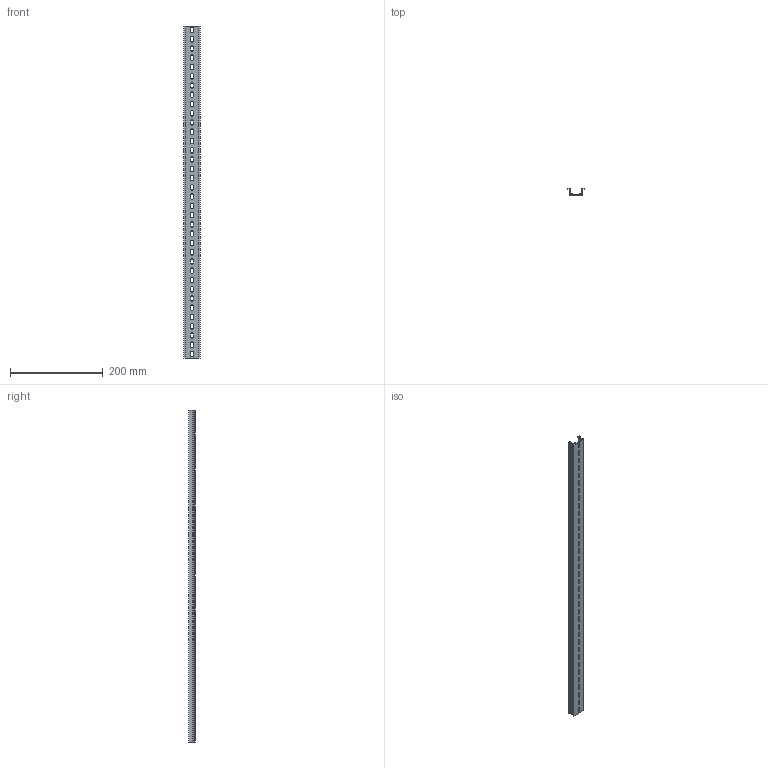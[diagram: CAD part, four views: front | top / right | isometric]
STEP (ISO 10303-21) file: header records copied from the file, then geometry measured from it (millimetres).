
FILE_DESCRIPTION(/* description */ (''),/* implementation_level */ '2;1');
FILE_NAME(/* name */ '22649-(TKB KD-36)HP 3D.stp',/* time_stamp */ '2024-12-05T14:19:02+09:00',/* author */ ('usercadg104'),/* organization */ (''),/* preprocessor_version */ 'ST-DEVELOPER v19.2',/* originating_system */ 'Autodesk Inventor 2023',/* authorisation */ '');
FILE_SCHEMA (('CONFIG_CONTROL_DESIGN'));
Length unit declared in the file: millimetre
Products named in the file (1): TKB KD-3(林)
Bounding box: 35 x 15 x 717 mm (x, y, z)
Volume: 83886.5 mm3; surface area: 96889.3 mm2
Topology: 1 solids, 1 shells, 184 faces, 546 edges, 364 vertices
Faces by surface type: plane 108, cylinder 76
Entity records: 6369 total; most frequent: CARTESIAN_POINT 1095, ORIENTED_EDGE 1092, DIRECTION 1068, EDGE_CURVE 546, LINE 394, VECTOR 394, VERTEX_POINT 364, AXIS2_PLACEMENT_3D 337
